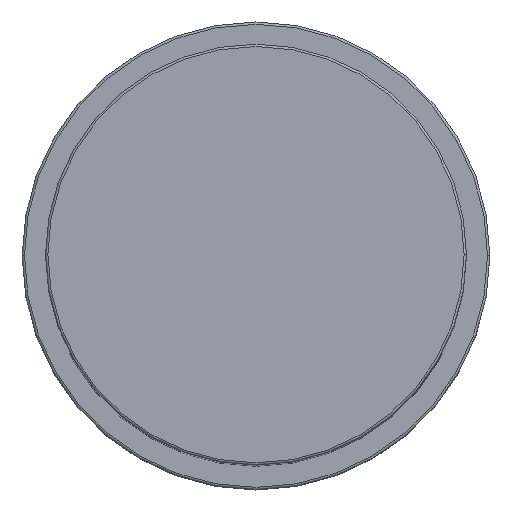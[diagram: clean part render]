
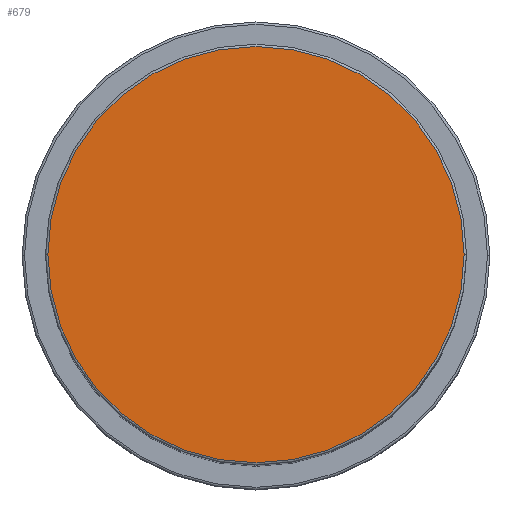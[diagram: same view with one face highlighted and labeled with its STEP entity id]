
A CAD part, top view. The second image highlights one B-rep face of the part: STEP entity #679.
In plain terms, the highlighted planar face has unit normal (0, 0, 1).
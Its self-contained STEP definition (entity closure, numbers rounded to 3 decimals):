
#23 = CARTESIAN_POINT ( 'NONE',  ( 0., 0., 164. ) ) ;
#186 = AXIS2_PLACEMENT_3D ( 'NONE', #23, #5137, #3967 ) ;
#679 = ADVANCED_FACE ( 'NONE', ( #2880 ), #1216, .T. ) ;
#702 = CARTESIAN_POINT ( 'NONE',  ( 44.5, 0., 164. ) ) ;
#1216 = PLANE ( 'NONE',  #186 ) ;
#1507 = VERTEX_POINT ( 'NONE', #2093 ) ;
#1638 = DIRECTION ( 'NONE',  ( 0., 0., 1. ) ) ;
#1805 = ORIENTED_EDGE ( 'NONE', *, *, #3851, .T. ) ;
#2002 = AXIS2_PLACEMENT_3D ( 'NONE', #5882, #5862, #5361 ) ;
#2058 = VERTEX_POINT ( 'NONE', #702 ) ;
#2093 = CARTESIAN_POINT ( 'NONE',  ( -44.5, 0., 164. ) ) ;
#2880 = FACE_OUTER_BOUND ( 'NONE', #6558, .T. ) ;
#3373 = ORIENTED_EDGE ( 'NONE', *, *, #7023, .T. ) ;
#3851 = EDGE_CURVE ( 'NONE', #1507, #2058, #7245, .T. ) ;
#3967 = DIRECTION ( 'NONE',  ( 1., 0., 0. ) ) ;
#4454 = CIRCLE ( 'NONE', #4886, 44.5 ) ;
#4886 = AXIS2_PLACEMENT_3D ( 'NONE', #6669, #1638, #4986 ) ;
#4986 = DIRECTION ( 'NONE',  ( 1., 0., 0. ) ) ;
#5137 = DIRECTION ( 'NONE',  ( 0., 0., 1. ) ) ;
#5361 = DIRECTION ( 'NONE',  ( 1., 0., 0. ) ) ;
#5862 = DIRECTION ( 'NONE',  ( 0., 0., 1. ) ) ;
#5882 = CARTESIAN_POINT ( 'NONE',  ( 0., 0., 164. ) ) ;
#6558 = EDGE_LOOP ( 'NONE', ( #3373, #1805 ) ) ;
#6669 = CARTESIAN_POINT ( 'NONE',  ( 0., 0., 164. ) ) ;
#7023 = EDGE_CURVE ( 'NONE', #2058, #1507, #4454, .T. ) ;
#7245 = CIRCLE ( 'NONE', #2002, 44.5 ) ;
